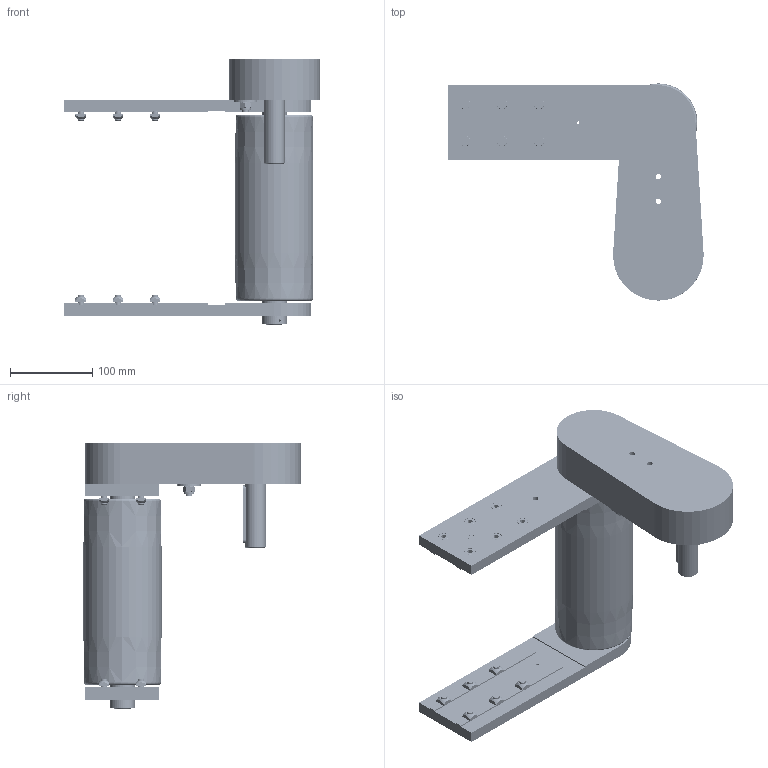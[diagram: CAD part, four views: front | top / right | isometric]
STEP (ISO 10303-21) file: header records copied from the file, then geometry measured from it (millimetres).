
FILE_DESCRIPTION (( 'STEP AP203' ), '1' );
FILE_NAME ('084.095.KTC.49.200.step', '2014-02-18T11:37:07', ( '' ), ( '' ), 'SwSTEP 2.0', 'SolidWorks 2012', '' );
FILE_SCHEMA (( 'CONFIG_CONTROL_DESIGN' ));
Products named in the file (24): 084.095.KTC.49.200; 084.813.005; 084.302.000 DADI ALUSIC 13x13_084.302.004; 084.301.000 VITI ALUSIC_084.301.003; 084.809.003; 084.810.005; ISO 7040-M8-S_ISO 7040-M8-S; Washer ISO 7094 - 8_Washer ISO 7094 - 8; Circlip DIN 471 - 8 x 0.8_Circlip DIN 471 - 8 x 0.8; CUSCINETTI A SFERE_608-2RS; 084.810.004; 084.810.007; CHIAVETTE_A 8x7x70 UNI 6604-69; 084.803.012; 084.803.014; 084.809.002; 084.808.002_084.808.002; 084.808.003_084.808.003; 084.802.019_084.802.019; 084.802.034_084.802.034; 084.810.003; 084.813.002; 084.812.003; 084.816.101_084.816.107<A macchina>
Assembly tree (48 placements, depth 3):
  084.095.KTC.49.200
    084.816.101_084.816.107<A macchina>
    084.812.003
    084.813.002
    084.810.003  x2
    084.802.034_084.802.034
    084.802.019_084.802.019
    084.808.003_084.808.003
    084.808.002_084.808.002
    084.809.002
    084.803.014  x2
    084.803.012
    CHIAVETTE_A 8x7x70 UNI 6604-69
    084.810.005
      084.810.007
      084.810.004
      CUSCINETTI A SFERE_608-2RS  x2
      Circlip DIN 471 - 8 x 0.8_Circlip DIN 471 - 8 x 0.8
      Washer ISO 7094 - 8_Washer ISO 7094 - 8
      ISO 7040-M8-S_ISO 7040-M8-S
    084.809.003
    084.301.000 VITI ALUSIC_084.301.003  x12
    084.302.000 DADI ALUSIC 13x13_084.302.004  x12
    084.813.005
Bounding box: 310 x 264 x 323.5 mm (x, y, z)
Volume: 1669902.2 mm3; surface area: 700838.6 mm2
Topology: 77 solids, 78 shells, 3188 faces, 7508 edges, 4800 vertices
Faces by surface type: cylinder 1493, plane 863, bspline 516, cone 197, torus 110, sphere 9
Entity records: 86275 total; most frequent: CARTESIAN_POINT 19873, DIRECTION 14221, ORIENTED_EDGE 12566, EDGE_CURVE 6283, AXIS2_PLACEMENT_3D 5965, VERTEX_POINT 4005, CIRCLE 3741, EDGE_LOOP 3268
